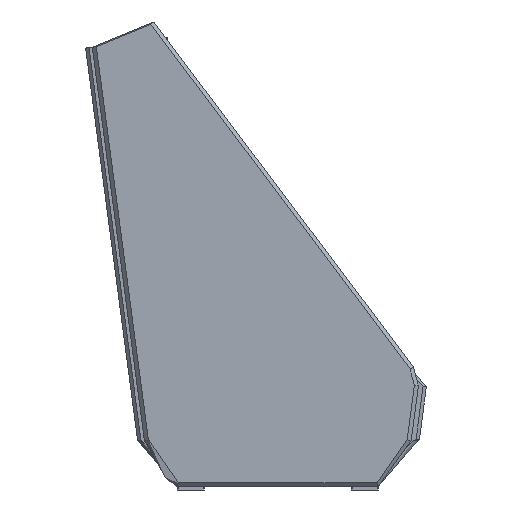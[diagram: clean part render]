
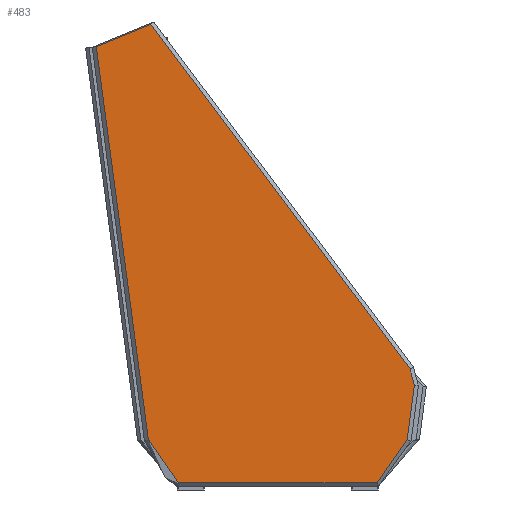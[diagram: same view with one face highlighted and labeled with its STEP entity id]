
A CAD part, left-side view. The second image highlights one B-rep face of the part: STEP entity #483.
In plain terms, the highlighted planar face has unit normal (-1, 0, 0).
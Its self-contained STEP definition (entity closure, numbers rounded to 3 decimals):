
#483=ADVANCED_FACE('',(#810),#4561,.T.);
#810=FACE_OUTER_BOUND('',#1137,.T.);
#1137=EDGE_LOOP('',(#2459,#2460,#2461,#2462,#2463,#2464,#2465,#2466));
#2459=ORIENTED_EDGE('',*,*,#3303,.F.);
#2460=ORIENTED_EDGE('',*,*,#3291,.F.);
#2461=ORIENTED_EDGE('',*,*,#3287,.F.);
#2462=ORIENTED_EDGE('',*,*,#3301,.F.);
#2463=ORIENTED_EDGE('',*,*,#3298,.F.);
#2464=ORIENTED_EDGE('',*,*,#3295,.F.);
#2465=ORIENTED_EDGE('',*,*,#3305,.F.);
#2466=ORIENTED_EDGE('',*,*,#3285,.T.);
#3285=EDGE_CURVE('',#4436,#4435,#3934,.T.);
#3287=EDGE_CURVE('',#4439,#4440,#3936,.T.);
#3291=EDGE_CURVE('',#4440,#4442,#3940,.T.);
#3295=EDGE_CURVE('',#4446,#4445,#3944,.T.);
#3298=EDGE_CURVE('',#4445,#4448,#3947,.T.);
#3301=EDGE_CURVE('',#4448,#4439,#3950,.T.);
#3303=EDGE_CURVE('',#4442,#4435,#3952,.T.);
#3305=EDGE_CURVE('',#4436,#4446,#3954,.T.);
#3934=(
BOUNDED_CURVE()
B_SPLINE_CURVE(1,(#11761,#11762),.UNSPECIFIED.,.F.,.F.)
B_SPLINE_CURVE_WITH_KNOTS((2,2),(2.934,597.17),
 .UNSPECIFIED.)
CURVE()
GEOMETRIC_REPRESENTATION_ITEM()
RATIONAL_B_SPLINE_CURVE((1.,1.))
REPRESENTATION_ITEM('')
);
#3936=(
BOUNDED_CURVE()
B_SPLINE_CURVE(3,(#11766,#11767,#11768,#11769,#11770),.UNSPECIFIED.,.F.,
 .F.)
B_SPLINE_CURVE_WITH_KNOTS((4,1,4),(0.,26.415,
52.83),.UNSPECIFIED.)
CURVE()
GEOMETRIC_REPRESENTATION_ITEM()
RATIONAL_B_SPLINE_CURVE((1.,1.,1.,1.,1.))
REPRESENTATION_ITEM('')
);
#3940=(
BOUNDED_CURVE()
B_SPLINE_CURVE(1,(#11779,#11780),.UNSPECIFIED.,.F.,.F.)
B_SPLINE_CURVE_WITH_KNOTS((2,2),(0.,163.924),
 .UNSPECIFIED.)
CURVE()
GEOMETRIC_REPRESENTATION_ITEM()
RATIONAL_B_SPLINE_CURVE((1.,1.))
REPRESENTATION_ITEM('')
);
#3944=(
BOUNDED_CURVE()
B_SPLINE_CURVE(1,(#11789,#11790),.UNSPECIFIED.,.F.,.F.)
B_SPLINE_CURVE_WITH_KNOTS((2,2),(0.,1184.771),
 .UNSPECIFIED.)
CURVE()
GEOMETRIC_REPRESENTATION_ITEM()
RATIONAL_B_SPLINE_CURVE((1.,1.))
REPRESENTATION_ITEM('')
);
#3947=(
BOUNDED_CURVE()
B_SPLINE_CURVE(3,(#11799,#11800,#11801,#11802,#11803,#11804,#11805,#11806,
#11807,#11808,#11809),.UNSPECIFIED.,.F.,.F.)
B_SPLINE_CURVE_WITH_KNOTS((4,1,1,1,1,1,1,1,4),(0.,29.067,
59.791,90.515,119.582,148.648,179.373,
210.097,239.163),.UNSPECIFIED.)
CURVE()
GEOMETRIC_REPRESENTATION_ITEM()
RATIONAL_B_SPLINE_CURVE((1.,1.,1.,1.,1.,1.,1.,1.,1.,1.,1.))
REPRESENTATION_ITEM('')
);
#3950=(
BOUNDED_CURVE()
B_SPLINE_CURVE(1,(#11815,#11816),.UNSPECIFIED.,.F.,.F.)
B_SPLINE_CURVE_WITH_KNOTS((2,2),(0.,1287.654),
 .UNSPECIFIED.)
CURVE()
GEOMETRIC_REPRESENTATION_ITEM()
RATIONAL_B_SPLINE_CURVE((1.,1.))
REPRESENTATION_ITEM('')
);
#3952=(
BOUNDED_CURVE()
B_SPLINE_CURVE(3,(#11820,#11821,#11822,#11823,#11824,#11825,#11826,#11827,
#11828,#11829),.UNSPECIFIED.,.F.,.F.)
B_SPLINE_CURVE_WITH_KNOTS((4,3,3,4),(0.,61.354,
122.934,162.662),.UNSPECIFIED.)
CURVE()
GEOMETRIC_REPRESENTATION_ITEM()
RATIONAL_B_SPLINE_CURVE((1.,1.,1.,1.,1.,1.,1.,1.,1.,1.))
REPRESENTATION_ITEM('')
);
#3954=(
BOUNDED_CURVE()
B_SPLINE_CURVE(3,(#11833,#11834,#11835,#11836,#11837,#11838,#11839,#11840,
#11841,#11842),.UNSPECIFIED.,.F.,.F.)
B_SPLINE_CURVE_WITH_KNOTS((4,3,3,4),(83.206,122.934,
184.514,245.868),.UNSPECIFIED.)
CURVE()
GEOMETRIC_REPRESENTATION_ITEM()
RATIONAL_B_SPLINE_CURVE((1.,1.,1.,1.,1.,
1.,1.,1.,1.,1.))
REPRESENTATION_ITEM('')
);
#4435=VERTEX_POINT('',#11727);
#4436=VERTEX_POINT('',#11728);
#4439=VERTEX_POINT('',#11731);
#4440=VERTEX_POINT('',#11732);
#4442=VERTEX_POINT('',#11734);
#4445=VERTEX_POINT('',#11737);
#4446=VERTEX_POINT('',#11738);
#4448=VERTEX_POINT('',#11740);
#4561=PLANE('',#4943);
#4943=AXIS2_PLACEMENT_3D('',#11682,#5003,$);
#5003=DIRECTION('',(-1.,0.,0.));
#11682=CARTESIAN_POINT('',(-1225.,-542.626,-192.099));
#11727=CARTESIAN_POINT('',(-1225.,-297.118,21.));
#11728=CARTESIAN_POINT('',(-1225.,297.118,21.));
#11731=CARTESIAN_POINT('',(-1225.,-395.001,361.871));
#11732=CARTESIAN_POINT('',(-1225.,-408.078,312.046));
#11734=CARTESIAN_POINT('',(-1225.,-386.54,149.544));
#11737=CARTESIAN_POINT('',(-1225.,542.208,1324.043));
#11738=CARTESIAN_POINT('',(-1225.,386.54,149.544));
#11740=CARTESIAN_POINT('',(-1225.,379.287,1390.72));
#11761=CARTESIAN_POINT('',(-1225.,297.118,21.));
#11762=CARTESIAN_POINT('',(-1225.,-297.118,21.));
#11766=CARTESIAN_POINT('',(-1225.,-395.001,361.871));
#11767=CARTESIAN_POINT('',(-1225.,-400.301,354.839));
#11768=CARTESIAN_POINT('',(-1225.,-408.111,338.683));
#11769=CARTESIAN_POINT('',(-1225.,-409.242,320.775));
#11770=CARTESIAN_POINT('',(-1225.,-408.078,312.046));
#11779=CARTESIAN_POINT('',(-1225.,-408.078,312.046));
#11780=CARTESIAN_POINT('',(-1225.,-386.54,149.544));
#11789=CARTESIAN_POINT('',(-1225.,386.54,149.544));
#11790=CARTESIAN_POINT('',(-1225.,542.208,1324.043));
#11799=CARTESIAN_POINT('',(-1225.,542.208,1324.043));
#11800=CARTESIAN_POINT('',(-1225.,543.484,1333.648));
#11801=CARTESIAN_POINT('',(-1225.,542.919,1353.827));
#11802=CARTESIAN_POINT('',(-1225.,532.241,1382.509));
#11803=CARTESIAN_POINT('',(-1225.,512.661,1406.033));
#11804=CARTESIAN_POINT('',(-1225.,487.056,1421.665));
#11805=CARTESIAN_POINT('',(-1225.,457.838,1428.469));
#11806=CARTESIAN_POINT('',(-1225.,427.384,1425.423));
#11807=CARTESIAN_POINT('',(-1225.,399.661,1412.456));
#11808=CARTESIAN_POINT('',(-1225.,385.111,1398.463));
#11809=CARTESIAN_POINT('',(-1225.,379.287,1390.72));
#11815=CARTESIAN_POINT('',(-1225.,379.287,1390.72));
#11816=CARTESIAN_POINT('',(-1225.,-395.001,361.871));
#11820=CARTESIAN_POINT('',(-1225.,-386.54,149.544));
#11821=CARTESIAN_POINT('',(-1225.,-383.862,129.268));
#11822=CARTESIAN_POINT('',(-1225.,-377.492,109.485));
#11823=CARTESIAN_POINT('',(-1225.,-367.851,91.45));
#11824=CARTESIAN_POINT('',(-1225.,-358.174,73.349));
#11825=CARTESIAN_POINT('',(-1225.,-345.203,57.008));
#11826=CARTESIAN_POINT('',(-1225.,-329.765,43.482));
#11827=CARTESIAN_POINT('',(-1225.,-319.806,34.755));
#11828=CARTESIAN_POINT('',(-1225.,-308.82,27.2));
#11829=CARTESIAN_POINT('',(-1225.,-297.118,21.));
#11833=CARTESIAN_POINT('',(-1225.,297.118,21.));
#11834=CARTESIAN_POINT('',(-1225.,308.82,27.2));
#11835=CARTESIAN_POINT('',(-1225.,319.806,34.755));
#11836=CARTESIAN_POINT('',(-1225.,329.765,43.482));
#11837=CARTESIAN_POINT('',(-1225.,345.203,57.008));
#11838=CARTESIAN_POINT('',(-1225.,358.174,73.349));
#11839=CARTESIAN_POINT('',(-1225.,367.851,91.45));
#11840=CARTESIAN_POINT('',(-1225.,377.492,109.485));
#11841=CARTESIAN_POINT('',(-1225.,383.862,129.268));
#11842=CARTESIAN_POINT('',(-1225.,386.54,149.544));
